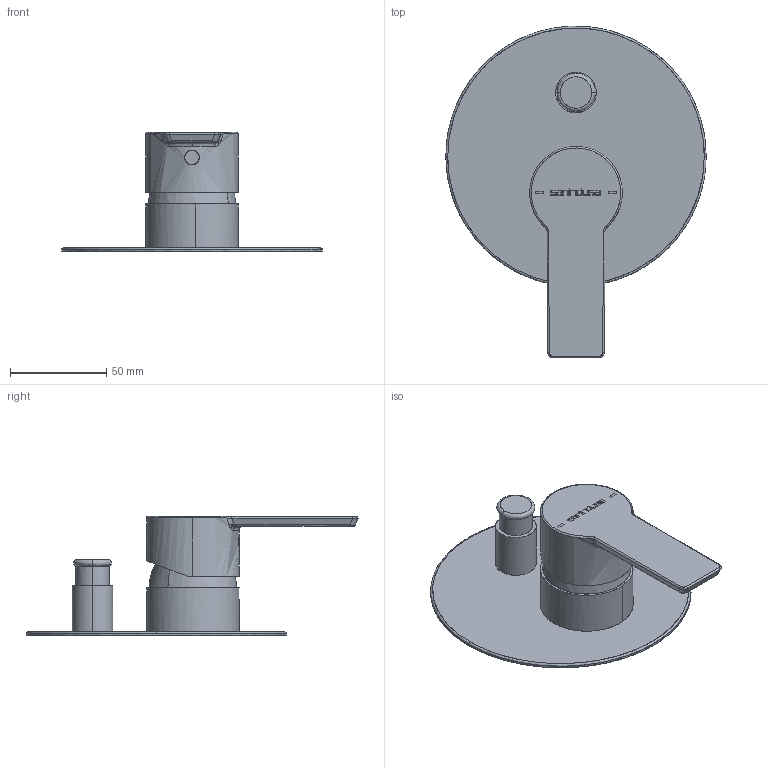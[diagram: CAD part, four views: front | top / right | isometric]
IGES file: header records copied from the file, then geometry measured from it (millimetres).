
Start section: SolidWorks IGES file using NURBS representation for surfaces
Global section: file name: \\IBMGRAU\Projectos\01-TORNEIRAS\MASTER 40\5251801C - mist. encast. 4v esp. red\biblioteca 3D\5251801C_igs.IGS; native system: SolidWorks 2019; preprocessor: SolidWorks 2019; author: Julio; date: 190403.171609; units: millimetre
Bounding box: 135 x 172.16 x 61.85 mm (x, y, z)
Surface area: 45253.9 mm2 (no closed solid volume)
Topology: 0 solids, 0 shells, 219 faces, 2270 edges, 2267 vertices
Faces by surface type: bspline 219
